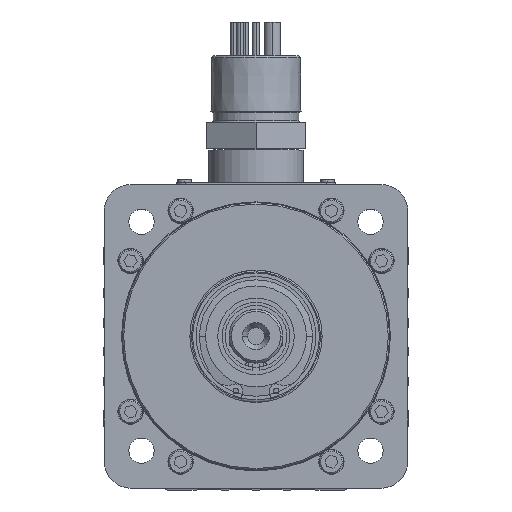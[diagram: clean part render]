
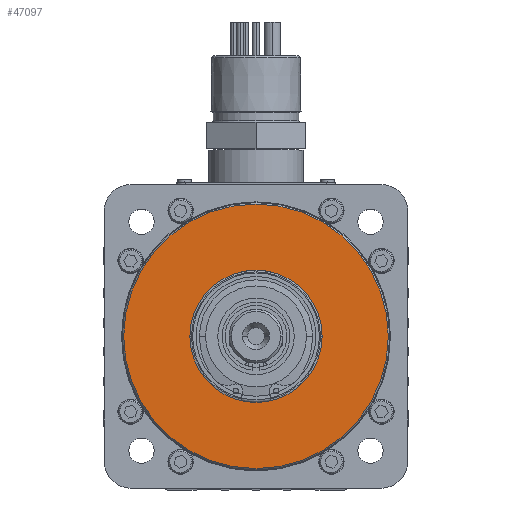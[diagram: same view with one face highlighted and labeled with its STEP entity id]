
A CAD part, top view. The second image highlights one B-rep face of the part: STEP entity #47097.
In plain terms, the highlighted planar face has unit normal (0, 0, 1).
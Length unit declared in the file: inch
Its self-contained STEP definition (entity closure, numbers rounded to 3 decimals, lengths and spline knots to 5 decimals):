
#20598 = CARTESIAN_POINT ( 'NONE',  ( 1.8501, 0., 0. ) ) ;
#20599 = DIRECTION ( 'NONE',  ( 1., 0., 0. ) ) ;
#20600 = DIRECTION ( 'NONE',  ( 0., 0., 1. ) ) ;
#20601 = CARTESIAN_POINT ( 'NONE',  ( 0., 0., 0. ) ) ;
#20602 = AXIS2_PLACEMENT_3D ( 'NONE', #20601, #20600, #20599 ) ;
#20603 = CIRCLE ( 'NONE', #20602, 1.8501 ) ;
#20941 = CARTESIAN_POINT ( 'NONE',  ( -1.8501, 0., 0. ) ) ;
#20954 = CARTESIAN_POINT ( 'NONE',  ( 0.9254, 0., 0. ) ) ;
#20955 = DIRECTION ( 'NONE',  ( 1., 0., 0. ) ) ;
#20956 = DIRECTION ( 'NONE',  ( 0., 0., 1. ) ) ;
#20957 = CARTESIAN_POINT ( 'NONE',  ( 0., 0., 0. ) ) ;
#20958 = AXIS2_PLACEMENT_3D ( 'NONE', #20957, #20956, #20955 ) ;
#20959 = CIRCLE ( 'NONE', #20958, 0.9254 ) ;
#20965 = CARTESIAN_POINT ( 'NONE',  ( -0.9254, 0., 0. ) ) ;
#22518 = DIRECTION ( 'NONE',  ( 1., 0., 0. ) ) ;
#22519 = DIRECTION ( 'NONE',  ( 0., 0., 1. ) ) ;
#22520 = CARTESIAN_POINT ( 'NONE',  ( 0., 0., 0. ) ) ;
#22521 = AXIS2_PLACEMENT_3D ( 'NONE', #22520, #22519, #22518 ) ;
#22522 = DIRECTION ( 'NONE',  ( 1., 0., 0. ) ) ;
#22523 = DIRECTION ( 'NONE',  ( 0., 0., 1. ) ) ;
#22524 = CARTESIAN_POINT ( 'NONE',  ( 0., 0.9254, 0. ) ) ;
#22525 = CIRCLE ( 'NONE', #22521, 1.8501 ) ;
#22526 = AXIS2_PLACEMENT_3D ( 'NONE', #22524, #22523, #22522 ) ;
#22527 = PLANE ( 'NONE',  #22526 ) ;
#22528 = FACE_BOUND ( 'NONE', #47104, .T. ) ;
#22529 = FACE_OUTER_BOUND ( 'NONE', #47099, .T. ) ;
#22530 = DIRECTION ( 'NONE',  ( 1., 0., 0. ) ) ;
#22531 = DIRECTION ( 'NONE',  ( 0., 0., 1. ) ) ;
#22532 = CARTESIAN_POINT ( 'NONE',  ( 0., 0., 0. ) ) ;
#22533 = AXIS2_PLACEMENT_3D ( 'NONE', #22532, #22531, #22530 ) ;
#22534 = CIRCLE ( 'NONE', #22533, 0.9254 ) ;
#45978 = EDGE_CURVE ( 'NONE', #45979, #46119, #20603, .T. ) ;
#45979 = VERTEX_POINT ( 'NONE', #20598 ) ;
#46119 = VERTEX_POINT ( 'NONE', #20941 ) ;
#46183 = VERTEX_POINT ( 'NONE', #20965 ) ;
#46188 = EDGE_CURVE ( 'NONE', #46183, #46189, #20959, .T. ) ;
#46189 = VERTEX_POINT ( 'NONE', #20954 ) ;
#46909 = ORIENTED_EDGE ( 'NONE', *, *, #46188, .F. ) ;
#47095 = EDGE_CURVE ( 'NONE', #46189, #46183, #22534, .T. ) ;
#47097 = ADVANCED_FACE ( 'NONE', ( #22529, #22528 ), #22527, .T. ) ;
#47099 = EDGE_LOOP ( 'NONE', ( #47100, #47102 ) ) ;
#47100 = ORIENTED_EDGE ( 'NONE', *, *, #47101, .T. ) ;
#47101 = EDGE_CURVE ( 'NONE', #46119, #45979, #22525, .T. ) ;
#47102 = ORIENTED_EDGE ( 'NONE', *, *, #45978, .T. ) ;
#47104 = EDGE_LOOP ( 'NONE', ( #47106, #46909 ) ) ;
#47106 = ORIENTED_EDGE ( 'NONE', *, *, #47095, .F. ) ;
